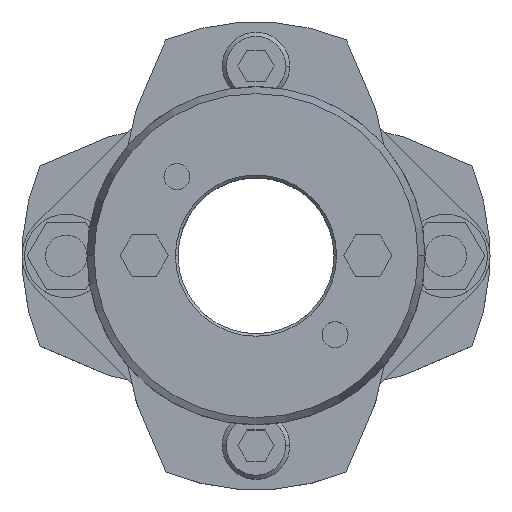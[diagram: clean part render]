
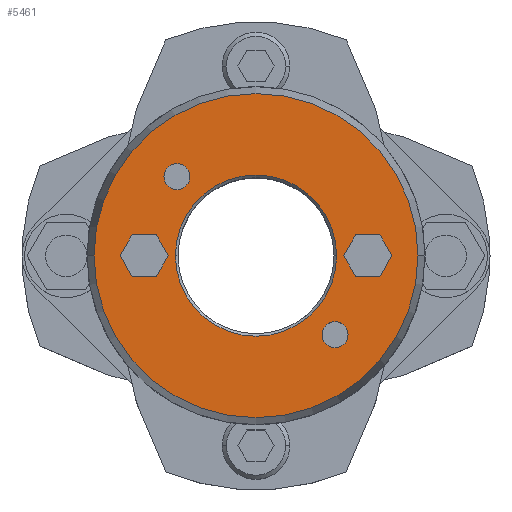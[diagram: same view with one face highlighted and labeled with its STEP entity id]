
A CAD part, top view. The second image highlights one B-rep face of the part: STEP entity #5461.
In plain terms, the highlighted planar face has unit normal (0, 0, 1).
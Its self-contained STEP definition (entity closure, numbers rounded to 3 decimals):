
#857=CARTESIAN_POINT('',(-15.5,0.,39.25));
#858=VERTEX_POINT('',#857);
#874=CARTESIAN_POINT('',(15.5,0.,39.25));
#875=VERTEX_POINT('',#874);
#882=CARTESIAN_POINT('',(0.,0.,39.25));
#883=DIRECTION('',(0.0,0.0,1.0));
#884=DIRECTION('',(-1.0,0.0,0.0));
#885=AXIS2_PLACEMENT_3D('',#882,#883,#884);
#886=CIRCLE('',#885,15.5);
#887=EDGE_CURVE('',#875,#858,#886,.T.);
#1003=CARTESIAN_POINT('',(31.16,0.,39.25));
#1004=VERTEX_POINT('',#1003);
#1013=CARTESIAN_POINT('',(-31.16,0.,39.25));
#1014=VERTEX_POINT('',#1013);
#1015=CARTESIAN_POINT('',(0.,0.,39.25));
#1016=DIRECTION('',(0.0,0.0,-1.0));
#1017=DIRECTION('',(1.0,0.0,0.0));
#1018=AXIS2_PLACEMENT_3D('',#1015,#1016,#1017);
#1019=CIRCLE('',#1018,31.16);
#1020=EDGE_CURVE('',#1004,#1014,#1019,.T.);
#1337=CARTESIAN_POINT('',(-17.703,15.203,39.25));
#1338=VERTEX_POINT('',#1337);
#1354=CARTESIAN_POINT('',(-12.703,15.203,39.25));
#1355=VERTEX_POINT('',#1354);
#1362=CARTESIAN_POINT('',(-15.203,15.203,39.25));
#1363=DIRECTION('',(0.0,0.0,-1.0));
#1364=DIRECTION('',(-1.0,0.0,0.0));
#1365=AXIS2_PLACEMENT_3D('',#1362,#1363,#1364);
#1366=CIRCLE('',#1365,2.5);
#1367=EDGE_CURVE('',#1338,#1355,#1366,.T.);
#1379=CARTESIAN_POINT('',(12.703,-15.203,39.25));
#1380=VERTEX_POINT('',#1379);
#1396=CARTESIAN_POINT('',(17.703,-15.203,39.25));
#1397=VERTEX_POINT('',#1396);
#1404=CARTESIAN_POINT('',(15.203,-15.203,39.25));
#1405=DIRECTION('',(0.0,0.0,-1.0));
#1406=DIRECTION('',(-1.0,0.0,0.0));
#1407=AXIS2_PLACEMENT_3D('',#1404,#1405,#1406);
#1408=CIRCLE('',#1407,2.5);
#1409=EDGE_CURVE('',#1380,#1397,#1408,.T.);
#4067=CARTESIAN_POINT('',(16.881,0.,39.25));
#4068=VERTEX_POINT('',#4067);
#4075=CARTESIAN_POINT('',(19.191,-4.,39.25));
#4076=VERTEX_POINT('',#4075);
#4077=CARTESIAN_POINT('',(19.191,-4.,39.25));
#4078=DIRECTION('',(-0.5,0.866,0.0));
#4079=VECTOR('',#4078,4.619);
#4080=LINE('',#4077,#4079);
#4081=EDGE_CURVE('',#4076,#4068,#4080,.T.);
#4105=CARTESIAN_POINT('',(19.191,4.,39.25));
#4106=VERTEX_POINT('',#4105);
#4113=CARTESIAN_POINT('',(16.881,0.,39.25));
#4114=DIRECTION('',(0.5,0.866,0.0));
#4115=VECTOR('',#4114,4.619);
#4116=LINE('',#4113,#4115);
#4117=EDGE_CURVE('',#4068,#4106,#4116,.T.);
#4136=CARTESIAN_POINT('',(23.809,4.,39.25));
#4137=VERTEX_POINT('',#4136);
#4144=CARTESIAN_POINT('',(19.191,4.,39.25));
#4145=DIRECTION('',(1.0,0.0,0.0));
#4146=VECTOR('',#4145,4.619);
#4147=LINE('',#4144,#4146);
#4148=EDGE_CURVE('',#4106,#4137,#4147,.T.);
#4167=CARTESIAN_POINT('',(26.119,0.,39.25));
#4168=VERTEX_POINT('',#4167);
#4175=CARTESIAN_POINT('',(23.809,4.,39.25));
#4176=DIRECTION('',(0.5,-0.866,0.0));
#4177=VECTOR('',#4176,4.619);
#4178=LINE('',#4175,#4177);
#4179=EDGE_CURVE('',#4137,#4168,#4178,.T.);
#4198=CARTESIAN_POINT('',(23.809,-4.,39.25));
#4199=VERTEX_POINT('',#4198);
#4206=CARTESIAN_POINT('',(26.119,0.,39.25));
#4207=DIRECTION('',(-0.5,-0.866,0.0));
#4208=VECTOR('',#4207,4.619);
#4209=LINE('',#4206,#4208);
#4210=EDGE_CURVE('',#4168,#4199,#4209,.T.);
#4228=CARTESIAN_POINT('',(23.809,-4.,39.25));
#4229=DIRECTION('',(-1.0,0.0,0.0));
#4230=VECTOR('',#4229,4.619);
#4231=LINE('',#4228,#4230);
#4232=EDGE_CURVE('',#4199,#4076,#4231,.T.);
#4267=CARTESIAN_POINT('',(-26.119,0.,39.25));
#4268=VERTEX_POINT('',#4267);
#4275=CARTESIAN_POINT('',(-23.809,-4.,39.25));
#4276=VERTEX_POINT('',#4275);
#4277=CARTESIAN_POINT('',(-23.809,-4.,39.25));
#4278=DIRECTION('',(-0.5,0.866,0.0));
#4279=VECTOR('',#4278,4.619);
#4280=LINE('',#4277,#4279);
#4281=EDGE_CURVE('',#4276,#4268,#4280,.T.);
#4305=CARTESIAN_POINT('',(-23.809,4.,39.25));
#4306=VERTEX_POINT('',#4305);
#4313=CARTESIAN_POINT('',(-26.119,0.,39.25));
#4314=DIRECTION('',(0.5,0.866,0.0));
#4315=VECTOR('',#4314,4.619);
#4316=LINE('',#4313,#4315);
#4317=EDGE_CURVE('',#4268,#4306,#4316,.T.);
#4336=CARTESIAN_POINT('',(-19.191,4.,39.25));
#4337=VERTEX_POINT('',#4336);
#4344=CARTESIAN_POINT('',(-23.809,4.,39.25));
#4345=DIRECTION('',(1.0,0.0,0.0));
#4346=VECTOR('',#4345,4.619);
#4347=LINE('',#4344,#4346);
#4348=EDGE_CURVE('',#4306,#4337,#4347,.T.);
#4367=CARTESIAN_POINT('',(-16.881,0.,39.25));
#4368=VERTEX_POINT('',#4367);
#4375=CARTESIAN_POINT('',(-19.191,4.,39.25));
#4376=DIRECTION('',(0.5,-0.866,0.0));
#4377=VECTOR('',#4376,4.619);
#4378=LINE('',#4375,#4377);
#4379=EDGE_CURVE('',#4337,#4368,#4378,.T.);
#4398=CARTESIAN_POINT('',(-19.191,-4.,39.25));
#4399=VERTEX_POINT('',#4398);
#4406=CARTESIAN_POINT('',(-16.881,0.,39.25));
#4407=DIRECTION('',(-0.5,-0.866,0.0));
#4408=VECTOR('',#4407,4.619);
#4409=LINE('',#4406,#4408);
#4410=EDGE_CURVE('',#4368,#4399,#4409,.T.);
#4428=CARTESIAN_POINT('',(-19.191,-4.,39.25));
#4429=DIRECTION('',(-1.0,0.0,0.0));
#4430=VECTOR('',#4429,4.619);
#4431=LINE('',#4428,#4430);
#4432=EDGE_CURVE('',#4399,#4276,#4431,.T.);
#4458=CARTESIAN_POINT('',(15.203,-15.203,39.25));
#4459=DIRECTION('',(0.0,0.0,-1.0));
#4460=DIRECTION('',(-1.0,0.0,0.0));
#4461=AXIS2_PLACEMENT_3D('',#4458,#4459,#4460);
#4462=CIRCLE('',#4461,2.5);
#4463=EDGE_CURVE('',#1397,#1380,#4462,.T.);
#4492=CARTESIAN_POINT('',(-15.203,15.203,39.25));
#4493=DIRECTION('',(0.0,0.0,-1.0));
#4494=DIRECTION('',(-1.0,0.0,0.0));
#4495=AXIS2_PLACEMENT_3D('',#4492,#4493,#4494);
#4496=CIRCLE('',#4495,2.5);
#4497=EDGE_CURVE('',#1355,#1338,#4496,.T.);
#5408=CARTESIAN_POINT('',(0.,0.,39.25));
#5409=DIRECTION('',(0.0,0.0,-1.0));
#5410=DIRECTION('',(1.0,0.0,0.0));
#5411=AXIS2_PLACEMENT_3D('',#5408,#5409,#5410);
#5412=CIRCLE('',#5411,31.16);
#5413=EDGE_CURVE('',#1014,#1004,#5412,.T.);
#5418=CARTESIAN_POINT('',(-2.682,0.,39.25));
#5419=DIRECTION('',(0.0,0.0,1.0));
#5420=DIRECTION('',(-1.0,0.0,0.0));
#5421=AXIS2_PLACEMENT_3D('',#5418,#5419,#5420);
#5422=PLANE('',#5421);
#5423=ORIENTED_EDGE('',*,*,#5413,.F.);
#5424=ORIENTED_EDGE('',*,*,#1020,.F.);
#5425=EDGE_LOOP('',(#5423,#5424));
#5426=FACE_OUTER_BOUND('',#5425,.T.);
#5427=ORIENTED_EDGE('',*,*,#4081,.T.);
#5428=ORIENTED_EDGE('',*,*,#4117,.T.);
#5429=ORIENTED_EDGE('',*,*,#4148,.T.);
#5430=ORIENTED_EDGE('',*,*,#4179,.T.);
#5431=ORIENTED_EDGE('',*,*,#4210,.T.);
#5432=ORIENTED_EDGE('',*,*,#4232,.T.);
#5433=EDGE_LOOP('',(#5427,#5428,#5429,#5430,#5431,#5432));
#5434=FACE_BOUND('',#5433,.T.);
#5435=ORIENTED_EDGE('',*,*,#4281,.T.);
#5436=ORIENTED_EDGE('',*,*,#4317,.T.);
#5437=ORIENTED_EDGE('',*,*,#4348,.T.);
#5438=ORIENTED_EDGE('',*,*,#4379,.T.);
#5439=ORIENTED_EDGE('',*,*,#4410,.T.);
#5440=ORIENTED_EDGE('',*,*,#4432,.T.);
#5441=EDGE_LOOP('',(#5435,#5436,#5437,#5438,#5439,#5440));
#5442=FACE_BOUND('',#5441,.T.);
#5443=ORIENTED_EDGE('',*,*,#1409,.T.);
#5444=ORIENTED_EDGE('',*,*,#4463,.T.);
#5445=EDGE_LOOP('',(#5443,#5444));
#5446=FACE_BOUND('',#5445,.T.);
#5447=ORIENTED_EDGE('',*,*,#1367,.T.);
#5448=ORIENTED_EDGE('',*,*,#4497,.T.);
#5449=EDGE_LOOP('',(#5447,#5448));
#5450=FACE_BOUND('',#5449,.T.);
#5451=ORIENTED_EDGE('',*,*,#887,.F.);
#5452=CARTESIAN_POINT('',(0.,0.,39.25));
#5453=DIRECTION('',(0.0,0.0,1.0));
#5454=DIRECTION('',(-1.0,0.0,0.0));
#5455=AXIS2_PLACEMENT_3D('',#5452,#5453,#5454);
#5456=CIRCLE('',#5455,15.5);
#5457=EDGE_CURVE('',#858,#875,#5456,.T.);
#5458=ORIENTED_EDGE('',*,*,#5457,.F.);
#5459=EDGE_LOOP('',(#5451,#5458));
#5460=FACE_BOUND('',#5459,.T.);
#5461=ADVANCED_FACE('',(#5426,#5434,#5442,#5446,#5450,#5460),#5422,.T.);
